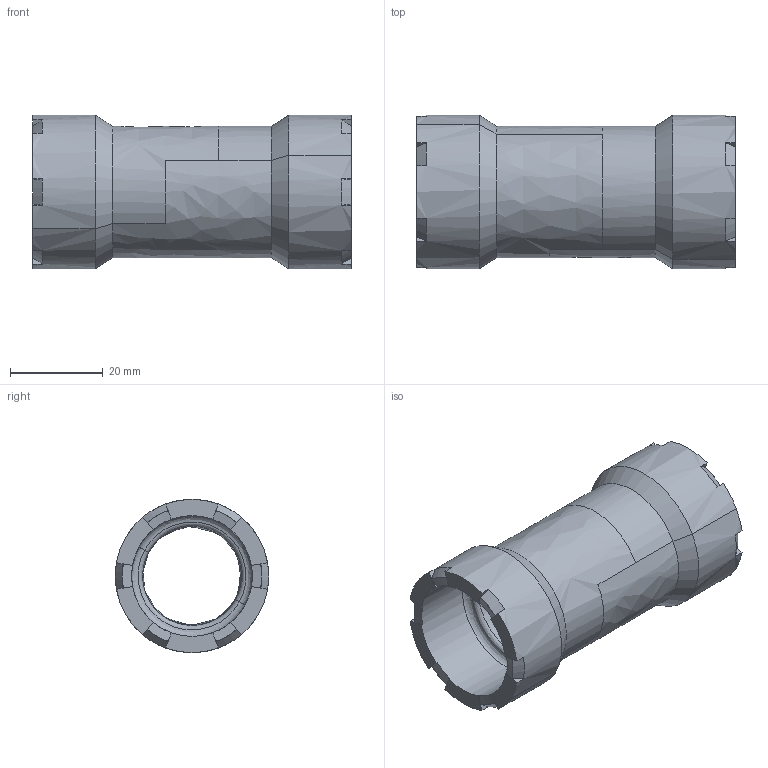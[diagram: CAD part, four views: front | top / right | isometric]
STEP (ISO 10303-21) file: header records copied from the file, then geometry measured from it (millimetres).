
FILE_DESCRIPTION(('STEP AP214'),'1');
FILE_NAME('pim0005821.stp','2016-07-06T07:01:30',('CAD-PIM'),('TransMagic, Inc.'),'TMR12sp0','TransMagic R12',' ');
FILE_SCHEMA(('AUTOMOTIVE_DESIGN'));
Length unit declared in the file: millimetre
Products named in the file (1): pim0005821 (1)
Bounding box: 68.5 x 32.99 x 33 mm (x, y, z)
Volume: 20491.4 mm3; surface area: 12465.5 mm2
Topology: 1 solids, 1 shells, 100 faces, 280 edges, 182 vertices
Faces by surface type: bspline 100
Entity records: 6570 total; most frequent: CARTESIAN_POINT 1131, STYLED_ITEM 563, PRESENTATION_STYLE_ASSIGNMENT 563, COLOUR_RGB 563, ORIENTED_EDGE 560, DIRECTION 380, EDGE_CURVE 280, CURVE_STYLE 280
